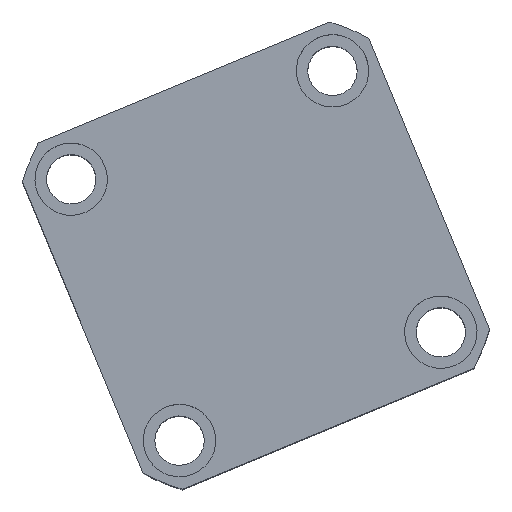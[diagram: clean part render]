
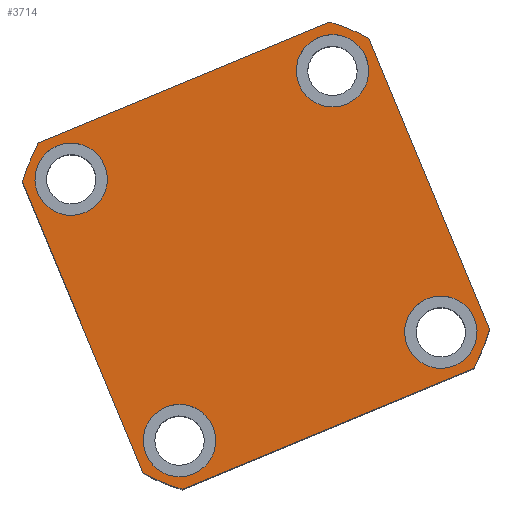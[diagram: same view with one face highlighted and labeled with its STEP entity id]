
A CAD part, top view. The second image highlights one B-rep face of the part: STEP entity #3714.
In plain terms, the highlighted planar face has unit normal (0, 0, 1) as drawn and (0, 0, -1) by its records, which use the part's own axes.
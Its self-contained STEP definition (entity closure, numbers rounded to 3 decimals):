
#164 = DIRECTION ( 'NONE',  ( -1., 0., 0. ) ) ;
#258 = ORIENTED_EDGE ( 'NONE', *, *, #4373, .F. ) ;
#357 = VERTEX_POINT ( 'NONE', #14945 ) ;
#532 = CARTESIAN_POINT ( 'NONE',  ( 0., 0., 0. ) ) ;
#743 = DIRECTION ( 'NONE',  ( 1., 0., 0. ) ) ;
#812 = DIRECTION ( 'NONE',  ( 0., 0., 1. ) ) ;
#1017 = ORIENTED_EDGE ( 'NONE', *, *, #1510, .F. ) ;
#1079 = CARTESIAN_POINT ( 'NONE',  ( 57., 47.971, 0. ) ) ;
#1438 = CARTESIAN_POINT ( 'NONE',  ( 32., -43., 0. ) ) ;
#1510 = EDGE_CURVE ( 'NONE', #13906, #8911, #16945, .T. ) ;
#1677 = CARTESIAN_POINT ( 'NONE',  ( -43., 43., 0. ) ) ;
#1780 = CIRCLE ( 'NONE', #12528, 74.5 ) ;
#1859 = DIRECTION ( 'NONE',  ( 1., 0., 0. ) ) ;
#2071 = VERTEX_POINT ( 'NONE', #3333 ) ;
#2090 = DIRECTION ( 'NONE',  ( 1., 0., 0. ) ) ;
#2413 = LINE ( 'NONE', #3370, #14738 ) ;
#2512 = FACE_OUTER_BOUND ( 'NONE', #18355, .T. ) ;
#2859 = EDGE_CURVE ( 'NONE', #5584, #5148, #19515, .T. ) ;
#3269 = DIRECTION ( 'NONE',  ( -1., 0., 0. ) ) ;
#3333 = CARTESIAN_POINT ( 'NONE',  ( 54., -43., 0. ) ) ;
#3361 = CARTESIAN_POINT ( 'NONE',  ( -43., -43., 0. ) ) ;
#3366 = CARTESIAN_POINT ( 'NONE',  ( 43., 43., 0. ) ) ;
#3370 = CARTESIAN_POINT ( 'NONE',  ( -57., 57., 0. ) ) ;
#3644 = CARTESIAN_POINT ( 'NONE',  ( 57., 57., 0. ) ) ;
#3714 = ADVANCED_FACE ( 'NONE', ( #15302, #11619, #11153, #6837, #2512 ), #14524, .F. ) ;
#3753 = LINE ( 'NONE', #3644, #11823 ) ;
#4157 = AXIS2_PLACEMENT_3D ( 'NONE', #6079, #17198, #7732 ) ;
#4373 = EDGE_CURVE ( 'NONE', #13674, #9470, #6060, .T. ) ;
#4452 = EDGE_CURVE ( 'NONE', #17603, #19435, #1780, .T. ) ;
#4550 = DIRECTION ( 'NONE',  ( 0., 0., -1. ) ) ;
#4612 = CARTESIAN_POINT ( 'NONE',  ( 0., 0., 0. ) ) ;
#4742 = EDGE_LOOP ( 'NONE', ( #4967, #18124 ) ) ;
#4967 = ORIENTED_EDGE ( 'NONE', *, *, #15792, .F. ) ;
#4987 = CARTESIAN_POINT ( 'NONE',  ( 0., 0., 0. ) ) ;
#4997 = DIRECTION ( 'NONE',  ( -1., 0., 0. ) ) ;
#5001 = DIRECTION ( 'NONE',  ( -1., 0., 0. ) ) ;
#5128 = VERTEX_POINT ( 'NONE', #1438 ) ;
#5148 = VERTEX_POINT ( 'NONE', #9588 ) ;
#5451 = EDGE_CURVE ( 'NONE', #357, #13635, #3753, .T. ) ;
#5515 = DIRECTION ( 'NONE',  ( 0., 0., 1. ) ) ;
#5556 = CARTESIAN_POINT ( 'NONE',  ( 0., 0., 0. ) ) ;
#5562 = EDGE_CURVE ( 'NONE', #9470, #13674, #16027, .T. ) ;
#5584 = VERTEX_POINT ( 'NONE', #20259 ) ;
#5591 = AXIS2_PLACEMENT_3D ( 'NONE', #19110, #9811, #164 ) ;
#5613 = CIRCLE ( 'NONE', #10414, 11. ) ;
#6060 = CIRCLE ( 'NONE', #13565, 11. ) ;
#6079 = CARTESIAN_POINT ( 'NONE',  ( -43., -43., 0. ) ) ;
#6239 = DIRECTION ( 'NONE',  ( 1., 0., 0. ) ) ;
#6610 = DIRECTION ( 'NONE',  ( 0., 0., 1. ) ) ;
#6702 = EDGE_CURVE ( 'NONE', #17314, #357, #11353, .T. ) ;
#6719 = CARTESIAN_POINT ( 'NONE',  ( 43., -43., 0. ) ) ;
#6837 = FACE_BOUND ( 'NONE', #4742, .T. ) ;
#6981 = EDGE_CURVE ( 'NONE', #5128, #2071, #17714, .T. ) ;
#7144 = CARTESIAN_POINT ( 'NONE',  ( 47.971, 57., 0. ) ) ;
#7339 = CARTESIAN_POINT ( 'NONE',  ( -54., 43., 0. ) ) ;
#7732 = DIRECTION ( 'NONE',  ( -1., 0., 0. ) ) ;
#7812 = ORIENTED_EDGE ( 'NONE', *, *, #14208, .F. ) ;
#7936 = CARTESIAN_POINT ( 'NONE',  ( -57., 57., 0. ) ) ;
#7945 = EDGE_CURVE ( 'NONE', #8911, #17603, #2413, .T. ) ;
#8381 = DIRECTION ( 'NONE',  ( -1., 0., 0. ) ) ;
#8451 = CARTESIAN_POINT ( 'NONE',  ( -32., 43., 0. ) ) ;
#8647 = AXIS2_PLACEMENT_3D ( 'NONE', #4987, #6610, #17725 ) ;
#8786 = CARTESIAN_POINT ( 'NONE',  ( 43., -43., 0. ) ) ;
#8911 = VERTEX_POINT ( 'NONE', #16031 ) ;
#9039 = CARTESIAN_POINT ( 'NONE',  ( -47.971, -57., 0. ) ) ;
#9216 = CARTESIAN_POINT ( 'NONE',  ( 32., 43., 0. ) ) ;
#9470 = VERTEX_POINT ( 'NONE', #19982 ) ;
#9575 = CARTESIAN_POINT ( 'NONE',  ( -47.971, 57., 0. ) ) ;
#9588 = CARTESIAN_POINT ( 'NONE',  ( -54., -43., 0. ) ) ;
#9594 = EDGE_LOOP ( 'NONE', ( #17445, #14015 ) ) ;
#9750 = CIRCLE ( 'NONE', #20252, 11. ) ;
#9811 = DIRECTION ( 'NONE',  ( 0., 0., -1. ) ) ;
#9889 = ORIENTED_EDGE ( 'NONE', *, *, #7945, .F. ) ;
#9984 = VERTEX_POINT ( 'NONE', #8451 ) ;
#10059 = VECTOR ( 'NONE', #1859, 1000. ) ;
#10138 = VERTEX_POINT ( 'NONE', #7144 ) ;
#10253 = VECTOR ( 'NONE', #18886, 1000. ) ;
#10277 = LINE ( 'NONE', #19240, #10059 ) ;
#10307 = ORIENTED_EDGE ( 'NONE', *, *, #5562, .F. ) ;
#10410 = DIRECTION ( 'NONE',  ( -1., 0., 0. ) ) ;
#10414 = AXIS2_PLACEMENT_3D ( 'NONE', #1677, #12918, #3269 ) ;
#10556 = AXIS2_PLACEMENT_3D ( 'NONE', #4612, #15809, #6239 ) ;
#10573 = ORIENTED_EDGE ( 'NONE', *, *, #2859, .F. ) ;
#10874 = ORIENTED_EDGE ( 'NONE', *, *, #4452, .F. ) ;
#11153 = FACE_BOUND ( 'NONE', #20007, .T. ) ;
#11353 = CIRCLE ( 'NONE', #10556, 74.5 ) ;
#11619 = FACE_BOUND ( 'NONE', #9594, .T. ) ;
#11746 = DIRECTION ( 'NONE',  ( 0., 0., 1. ) ) ;
#11823 = VECTOR ( 'NONE', #13282, 1000. ) ;
#11963 = CIRCLE ( 'NONE', #16043, 74.5 ) ;
#12283 = EDGE_LOOP ( 'NONE', ( #7812, #10573 ) ) ;
#12528 = AXIS2_PLACEMENT_3D ( 'NONE', #532, #11746, #2090 ) ;
#12724 = CIRCLE ( 'NONE', #5591, 11. ) ;
#12772 = AXIS2_PLACEMENT_3D ( 'NONE', #3361, #14601, #4997 ) ;
#12890 = EDGE_CURVE ( 'NONE', #13635, #10138, #11963, .T. ) ;
#12918 = DIRECTION ( 'NONE',  ( 0., 0., -1. ) ) ;
#13262 = EDGE_CURVE ( 'NONE', #9984, #16727, #12724, .T. ) ;
#13282 = DIRECTION ( 'NONE',  ( 0., 1., 0. ) ) ;
#13565 = AXIS2_PLACEMENT_3D ( 'NONE', #3366, #14605, #5001 ) ;
#13635 = VERTEX_POINT ( 'NONE', #1079 ) ;
#13674 = VERTEX_POINT ( 'NONE', #9216 ) ;
#13807 = ORIENTED_EDGE ( 'NONE', *, *, #5451, .F. ) ;
#13829 = EDGE_CURVE ( 'NONE', #10138, #13906, #13928, .T. ) ;
#13906 = VERTEX_POINT ( 'NONE', #9575 ) ;
#13928 = LINE ( 'NONE', #7936, #10253 ) ;
#14015 = ORIENTED_EDGE ( 'NONE', *, *, #15076, .F. ) ;
#14156 = CARTESIAN_POINT ( 'NONE',  ( 43., 43., 0. ) ) ;
#14208 = EDGE_CURVE ( 'NONE', #5148, #5584, #15662, .T. ) ;
#14524 = PLANE ( 'NONE',  #8647 ) ;
#14601 = DIRECTION ( 'NONE',  ( 0., 0., -1. ) ) ;
#14605 = DIRECTION ( 'NONE',  ( 0., 0., -1. ) ) ;
#14738 = VECTOR ( 'NONE', #17742, 1000. ) ;
#14919 = CARTESIAN_POINT ( 'NONE',  ( 47.971, -57., 0. ) ) ;
#14945 = CARTESIAN_POINT ( 'NONE',  ( 57., -47.971, 0. ) ) ;
#15076 = EDGE_CURVE ( 'NONE', #2071, #5128, #9750, .T. ) ;
#15101 = CARTESIAN_POINT ( 'NONE',  ( 0., 0., 0. ) ) ;
#15302 = FACE_BOUND ( 'NONE', #12283, .T. ) ;
#15378 = CARTESIAN_POINT ( 'NONE',  ( -57., -47.971, 0. ) ) ;
#15662 = CIRCLE ( 'NONE', #12772, 11. ) ;
#15748 = DIRECTION ( 'NONE',  ( -1., 0., 0. ) ) ;
#15792 = EDGE_CURVE ( 'NONE', #16727, #9984, #5613, .T. ) ;
#15809 = DIRECTION ( 'NONE',  ( 0., 0., 1. ) ) ;
#16027 = CIRCLE ( 'NONE', #16974, 11. ) ;
#16031 = CARTESIAN_POINT ( 'NONE',  ( -57., 47.971, 0. ) ) ;
#16043 = AXIS2_PLACEMENT_3D ( 'NONE', #15101, #5515, #16658 ) ;
#16658 = DIRECTION ( 'NONE',  ( 1., 0., 0. ) ) ;
#16727 = VERTEX_POINT ( 'NONE', #7339 ) ;
#16945 = CIRCLE ( 'NONE', #19493, 74.5 ) ;
#16974 = AXIS2_PLACEMENT_3D ( 'NONE', #14156, #4550, #15748 ) ;
#16986 = ORIENTED_EDGE ( 'NONE', *, *, #6702, .F. ) ;
#17198 = DIRECTION ( 'NONE',  ( 0., 0., -1. ) ) ;
#17314 = VERTEX_POINT ( 'NONE', #14919 ) ;
#17445 = ORIENTED_EDGE ( 'NONE', *, *, #6981, .F. ) ;
#17603 = VERTEX_POINT ( 'NONE', #15378 ) ;
#17714 = CIRCLE ( 'NONE', #19894, 11. ) ;
#17725 = DIRECTION ( 'NONE',  ( 1., 0., 0. ) ) ;
#17742 = DIRECTION ( 'NONE',  ( 0., -1., 0. ) ) ;
#17818 = DIRECTION ( 'NONE',  ( 0., 0., -1. ) ) ;
#17865 = EDGE_CURVE ( 'NONE', #19435, #17314, #10277, .T. ) ;
#18124 = ORIENTED_EDGE ( 'NONE', *, *, #13262, .F. ) ;
#18355 = EDGE_LOOP ( 'NONE', ( #18890, #13807, #16986, #20056, #10874, #9889, #1017, #20098 ) ) ;
#18886 = DIRECTION ( 'NONE',  ( -1., 0., 0. ) ) ;
#18890 = ORIENTED_EDGE ( 'NONE', *, *, #12890, .F. ) ;
#19110 = CARTESIAN_POINT ( 'NONE',  ( -43., 43., 0. ) ) ;
#19240 = CARTESIAN_POINT ( 'NONE',  ( -57., -57., 0. ) ) ;
#19435 = VERTEX_POINT ( 'NONE', #9039 ) ;
#19493 = AXIS2_PLACEMENT_3D ( 'NONE', #5556, #812, #743 ) ;
#19515 = CIRCLE ( 'NONE', #4157, 11. ) ;
#19668 = DIRECTION ( 'NONE',  ( 0., 0., -1. ) ) ;
#19894 = AXIS2_PLACEMENT_3D ( 'NONE', #6719, #17818, #8381 ) ;
#19982 = CARTESIAN_POINT ( 'NONE',  ( 54., 43., 0. ) ) ;
#20007 = EDGE_LOOP ( 'NONE', ( #258, #10307 ) ) ;
#20056 = ORIENTED_EDGE ( 'NONE', *, *, #17865, .F. ) ;
#20098 = ORIENTED_EDGE ( 'NONE', *, *, #13829, .F. ) ;
#20252 = AXIS2_PLACEMENT_3D ( 'NONE', #8786, #19668, #10410 ) ;
#20259 = CARTESIAN_POINT ( 'NONE',  ( -32., -43., 0. ) ) ;
